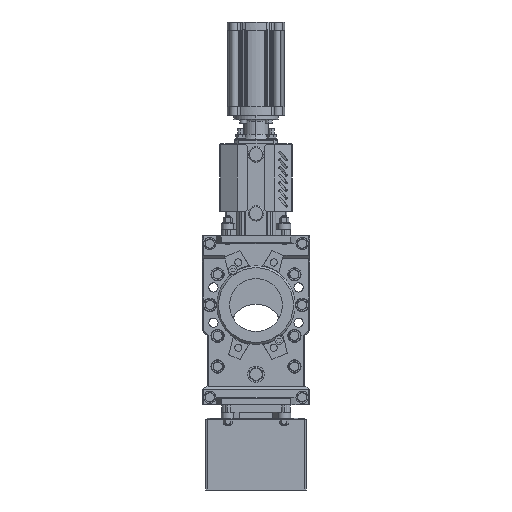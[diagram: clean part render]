
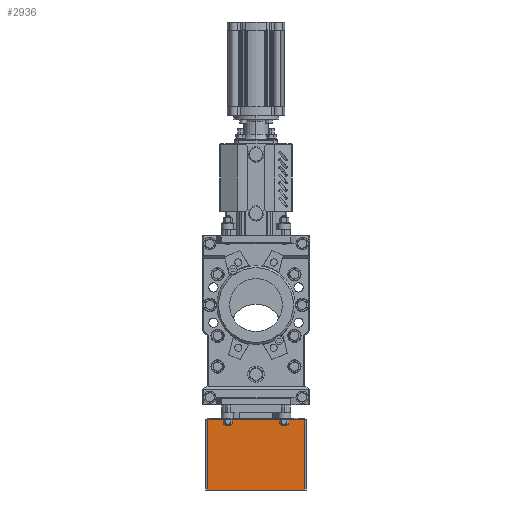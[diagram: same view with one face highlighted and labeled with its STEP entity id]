
A CAD part, left-side view. The second image highlights one B-rep face of the part: STEP entity #2936.
In plain terms, the highlighted planar face has unit normal (-1, 0, 0).
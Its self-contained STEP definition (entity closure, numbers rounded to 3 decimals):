
#2936=ADVANCED_FACE('',(#8825),#8826,.T.);
#8825=FACE_OUTER_BOUND('',#15102,.T.);
#8826=PLANE('',#15103);
#15102=EDGE_LOOP('',(#36599,#36600,#36601,#36602));
#15103=AXIS2_PLACEMENT_3D('',#36603,#36604,#36605);
#36599=ORIENTED_EDGE('',*,*,#45556,.T.);
#36600=ORIENTED_EDGE('',*,*,#45566,.F.);
#36601=ORIENTED_EDGE('',*,*,#45550,.T.);
#36602=ORIENTED_EDGE('',*,*,#45565,.T.);
#36603=CARTESIAN_POINT('',(-8.5,-94.5,-292.244));
#36604=DIRECTION('',(-1.,0.,0.));
#36605=DIRECTION('',(0.,0.,1.));
#45550=EDGE_CURVE('',#56903,#56867,#56904,.T.);
#45556=EDGE_CURVE('',#56914,#56912,#56915,.T.);
#45565=EDGE_CURVE('',#56867,#56914,#56925,.T.);
#45566=EDGE_CURVE('',#56903,#56912,#56926,.T.);
#56867=VERTEX_POINT('',#81614);
#56903=VERTEX_POINT('',#81668);
#56904=LINE('',#81669,#81670);
#56912=VERTEX_POINT('',#81679);
#56914=VERTEX_POINT('',#81681);
#56915=LINE('',#81682,#81683);
#56925=LINE('',#81698,#81699);
#56926=LINE('',#81700,#81701);
#81614=CARTESIAN_POINT('',(-8.5,-94.5,-223.494));
#81668=CARTESIAN_POINT('',(-8.5,-94.5,-360.994));
#81669=CARTESIAN_POINT('',(-8.5,-94.5,-360.994));
#81670=VECTOR('',#94538,10.);
#81679=CARTESIAN_POINT('',(-8.5,95.5,-360.994));
#81681=CARTESIAN_POINT('',(-8.5,95.5,-223.494));
#81682=CARTESIAN_POINT('',(-8.5,95.5,-360.994));
#81683=VECTOR('',#94552,10.);
#81698=CARTESIAN_POINT('',(-8.5,-94.5,-223.494));
#81699=VECTOR('',#94567,10.);
#81700=CARTESIAN_POINT('',(-8.5,-94.5,-360.994));
#81701=VECTOR('',#94568,10.);
#94538=DIRECTION('',(0.,0.,1.));
#94552=DIRECTION('',(0.,0.,-1.));
#94567=DIRECTION('',(0.,1.,0.));
#94568=DIRECTION('',(0.,1.,0.));
